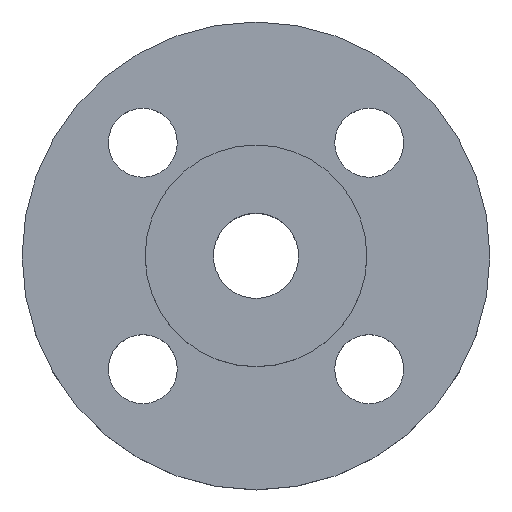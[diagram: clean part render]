
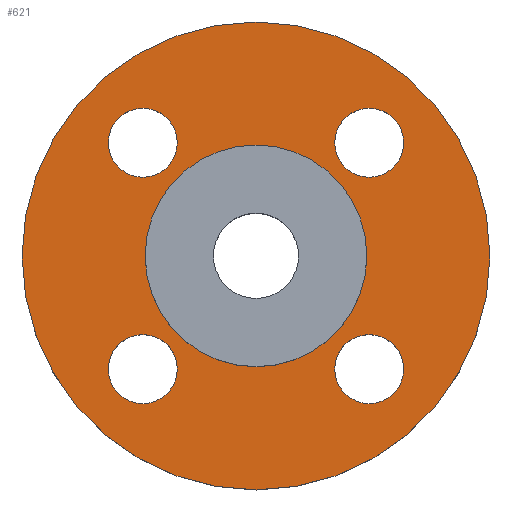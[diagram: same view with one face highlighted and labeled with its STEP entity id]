
A CAD part, top view. The second image highlights one B-rep face of the part: STEP entity #621.
In plain terms, the highlighted planar face has unit normal (0, 0, 1).
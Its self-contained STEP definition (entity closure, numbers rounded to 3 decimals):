
#26 = CARTESIAN_POINT ( 'NONE',  ( -15.981, -22.981, 0. ) ) ;
#32 = CIRCLE ( 'NONE', #370, 7. ) ;
#35 = CARTESIAN_POINT ( 'NONE',  ( -29.981, 22.981, 0. ) ) ;
#45 = CIRCLE ( 'NONE', #407, 7. ) ;
#60 = CARTESIAN_POINT ( 'NONE',  ( 47.5, 0., 0. ) ) ;
#93 = CARTESIAN_POINT ( 'NONE',  ( -29.981, -22.981, 0. ) ) ;
#101 = CARTESIAN_POINT ( 'NONE',  ( 0., 0., 0. ) ) ;
#103 = DIRECTION ( 'NONE',  ( 0., 0., -1. ) ) ;
#104 = DIRECTION ( 'NONE',  ( -1., 0., 0. ) ) ;
#112 = EDGE_CURVE ( 'NONE', #816, #572, #45, .T. ) ;
#115 = CARTESIAN_POINT ( 'NONE',  ( 29.981, -22.981, 0. ) ) ;
#119 = DIRECTION ( 'NONE',  ( -1., 0., 0. ) ) ;
#121 = DIRECTION ( 'NONE',  ( -1., 0., 0. ) ) ;
#122 = DIRECTION ( 'NONE',  ( 0., 0., -1. ) ) ;
#125 = CARTESIAN_POINT ( 'NONE',  ( 22.981, 22.981, 0. ) ) ;
#126 = DIRECTION ( 'NONE',  ( 0., 0., -1. ) ) ;
#131 = CARTESIAN_POINT ( 'NONE',  ( 0., 0., 0. ) ) ;
#133 = DIRECTION ( 'NONE',  ( 0., 0., 1. ) ) ;
#134 = DIRECTION ( 'NONE',  ( 1., 0., 0. ) ) ;
#135 = PLANE ( 'NONE',  #451 ) ;
#136 = FACE_OUTER_BOUND ( 'NONE', #809, .T. ) ;
#137 = FACE_BOUND ( 'NONE', #755, .T. ) ;
#138 = FACE_BOUND ( 'NONE', #831, .T. ) ;
#139 = FACE_BOUND ( 'NONE', #558, .T. ) ;
#140 = FACE_BOUND ( 'NONE', #683, .T. ) ;
#141 = FACE_BOUND ( 'NONE', #823, .T. ) ;
#143 = AXIS2_PLACEMENT_3D ( 'NONE', #101, #103, #104 ) ;
#154 = CARTESIAN_POINT ( 'NONE',  ( -47.5, 0., 0. ) ) ;
#162 = DIRECTION ( 'NONE',  ( -1., 0., 0. ) ) ;
#163 = DIRECTION ( 'NONE',  ( 0., 0., -1. ) ) ;
#164 = CARTESIAN_POINT ( 'NONE',  ( -22.981, -22.981, 0. ) ) ;
#165 = CARTESIAN_POINT ( 'NONE',  ( 20.5, 0., 0. ) ) ;
#171 = CARTESIAN_POINT ( 'NONE',  ( -22.981, -22.981, 0. ) ) ;
#174 = CARTESIAN_POINT ( 'NONE',  ( 15.981, -22.981, 0. ) ) ;
#177 = CARTESIAN_POINT ( 'NONE',  ( 29.981, 22.981, 0. ) ) ;
#181 = DIRECTION ( 'NONE',  ( 1., 0., 0. ) ) ;
#183 = CARTESIAN_POINT ( 'NONE',  ( -15.981, 22.981, 0. ) ) ;
#186 = CARTESIAN_POINT ( 'NONE',  ( 15.981, 22.981, 0. ) ) ;
#189 = CARTESIAN_POINT ( 'NONE',  ( -20.5, 0., 0. ) ) ;
#204 = EDGE_CURVE ( 'NONE', #610, #743, #398, .T. ) ;
#221 = AXIS2_PLACEMENT_3D ( 'NONE', #431, #432, #433 ) ;
#262 = CIRCLE ( 'NONE', #539, 7. ) ;
#281 = EDGE_CURVE ( 'NONE', #576, #568, #32, .T. ) ;
#287 = AXIS2_PLACEMENT_3D ( 'NONE', #505, #507, #508 ) ;
#306 = AXIS2_PLACEMENT_3D ( 'NONE', #125, #126, #119 ) ;
#319 = DIRECTION ( 'NONE',  ( 0., 0., -1. ) ) ;
#325 = CARTESIAN_POINT ( 'NONE',  ( 22.981, -22.981, 0. ) ) ;
#326 = DIRECTION ( 'NONE',  ( -1., 0., 0. ) ) ;
#330 = EDGE_CURVE ( 'NONE', #640, #584, #447, .T. ) ;
#359 = CIRCLE ( 'NONE', #476, 20.5 ) ;
#369 = EDGE_CURVE ( 'NONE', #743, #610, #381, .T. ) ;
#370 = AXIS2_PLACEMENT_3D ( 'NONE', #393, #395, #397 ) ;
#378 = AXIS2_PLACEMENT_3D ( 'NONE', #164, #163, #162 ) ;
#381 = CIRCLE ( 'NONE', #287, 47.5 ) ;
#385 = AXIS2_PLACEMENT_3D ( 'NONE', #325, #780, #326 ) ;
#393 = CARTESIAN_POINT ( 'NONE',  ( 22.981, 22.981, 0. ) ) ;
#395 = DIRECTION ( 'NONE',  ( 0., 0., -1. ) ) ;
#397 = DIRECTION ( 'NONE',  ( -1., 0., 0. ) ) ;
#398 = CIRCLE ( 'NONE', #639, 47.5 ) ;
#402 = EDGE_CURVE ( 'NONE', #565, #602, #359, .T. ) ;
#407 = AXIS2_PLACEMENT_3D ( 'NONE', #875, #876, #877 ) ;
#426 = CARTESIAN_POINT ( 'NONE',  ( -22.981, 22.981, 0. ) ) ;
#431 = CARTESIAN_POINT ( 'NONE',  ( 22.981, -22.981, 0. ) ) ;
#432 = DIRECTION ( 'NONE',  ( 0., 0., -1. ) ) ;
#433 = DIRECTION ( 'NONE',  ( -1., 0., 0. ) ) ;
#447 = CIRCLE ( 'NONE', #221, 7. ) ;
#451 = AXIS2_PLACEMENT_3D ( 'NONE', #131, #133, #134 ) ;
#458 = CIRCLE ( 'NONE', #378, 7. ) ;
#466 = EDGE_CURVE ( 'NONE', #584, #640, #493, .T. ) ;
#476 = AXIS2_PLACEMENT_3D ( 'NONE', #525, #549, #598 ) ;
#477 = EDGE_CURVE ( 'NONE', #572, #816, #262, .T. ) ;
#489 = CIRCLE ( 'NONE', #143, 20.5 ) ;
#493 = CIRCLE ( 'NONE', #385, 7. ) ;
#500 = DIRECTION ( 'NONE',  ( 0., 0., 1. ) ) ;
#505 = CARTESIAN_POINT ( 'NONE',  ( 0., 0., 0. ) ) ;
#507 = DIRECTION ( 'NONE',  ( 0., 0., 1. ) ) ;
#508 = DIRECTION ( 'NONE',  ( 1., 0., 0. ) ) ;
#525 = CARTESIAN_POINT ( 'NONE',  ( 0., 0., 0. ) ) ;
#539 = AXIS2_PLACEMENT_3D ( 'NONE', #426, #319, #784 ) ;
#541 = CIRCLE ( 'NONE', #306, 7. ) ;
#544 = CIRCLE ( 'NONE', #679, 7. ) ;
#549 = DIRECTION ( 'NONE',  ( 0., 0., -1. ) ) ;
#558 = EDGE_LOOP ( 'NONE', ( #671, #673 ) ) ;
#565 = VERTEX_POINT ( 'NONE', #189 ) ;
#568 = VERTEX_POINT ( 'NONE', #186 ) ;
#572 = VERTEX_POINT ( 'NONE', #183 ) ;
#576 = VERTEX_POINT ( 'NONE', #177 ) ;
#584 = VERTEX_POINT ( 'NONE', #174 ) ;
#585 = EDGE_CURVE ( 'NONE', #828, #593, #544, .T. ) ;
#593 = VERTEX_POINT ( 'NONE', #93 ) ;
#598 = DIRECTION ( 'NONE',  ( -1., 0., 0. ) ) ;
#602 = VERTEX_POINT ( 'NONE', #165 ) ;
#603 = EDGE_CURVE ( 'NONE', #593, #828, #458, .T. ) ;
#610 = VERTEX_POINT ( 'NONE', #154 ) ;
#621 = ADVANCED_FACE ( 'NONE', ( #141, #140, #139, #138, #137, #136 ), #135, .T. ) ;
#633 = EDGE_CURVE ( 'NONE', #568, #576, #541, .T. ) ;
#639 = AXIS2_PLACEMENT_3D ( 'NONE', #917, #500, #181 ) ;
#640 = VERTEX_POINT ( 'NONE', #115 ) ;
#665 = ORIENTED_EDGE ( 'NONE', *, *, #330, .T. ) ;
#666 = EDGE_CURVE ( 'NONE', #602, #565, #489, .T. ) ;
#668 = ORIENTED_EDGE ( 'NONE', *, *, #466, .T. ) ;
#669 = ORIENTED_EDGE ( 'NONE', *, *, #585, .T. ) ;
#670 = ORIENTED_EDGE ( 'NONE', *, *, #603, .T. ) ;
#671 = ORIENTED_EDGE ( 'NONE', *, *, #477, .T. ) ;
#673 = ORIENTED_EDGE ( 'NONE', *, *, #112, .T. ) ;
#674 = ORIENTED_EDGE ( 'NONE', *, *, #281, .T. ) ;
#675 = ORIENTED_EDGE ( 'NONE', *, *, #633, .T. ) ;
#676 = ORIENTED_EDGE ( 'NONE', *, *, #666, .T. ) ;
#678 = ORIENTED_EDGE ( 'NONE', *, *, #402, .T. ) ;
#679 = AXIS2_PLACEMENT_3D ( 'NONE', #171, #122, #121 ) ;
#680 = ORIENTED_EDGE ( 'NONE', *, *, #369, .T. ) ;
#683 = EDGE_LOOP ( 'NONE', ( #669, #670 ) ) ;
#684 = ORIENTED_EDGE ( 'NONE', *, *, #204, .T. ) ;
#743 = VERTEX_POINT ( 'NONE', #60 ) ;
#755 = EDGE_LOOP ( 'NONE', ( #676, #678 ) ) ;
#780 = DIRECTION ( 'NONE',  ( 0., 0., -1. ) ) ;
#784 = DIRECTION ( 'NONE',  ( -1., 0., 0. ) ) ;
#809 = EDGE_LOOP ( 'NONE', ( #680, #684 ) ) ;
#816 = VERTEX_POINT ( 'NONE', #35 ) ;
#823 = EDGE_LOOP ( 'NONE', ( #665, #668 ) ) ;
#828 = VERTEX_POINT ( 'NONE', #26 ) ;
#831 = EDGE_LOOP ( 'NONE', ( #674, #675 ) ) ;
#875 = CARTESIAN_POINT ( 'NONE',  ( -22.981, 22.981, 0. ) ) ;
#876 = DIRECTION ( 'NONE',  ( 0., 0., -1. ) ) ;
#877 = DIRECTION ( 'NONE',  ( -1., 0., 0. ) ) ;
#917 = CARTESIAN_POINT ( 'NONE',  ( 0., 0., 0. ) ) ;
